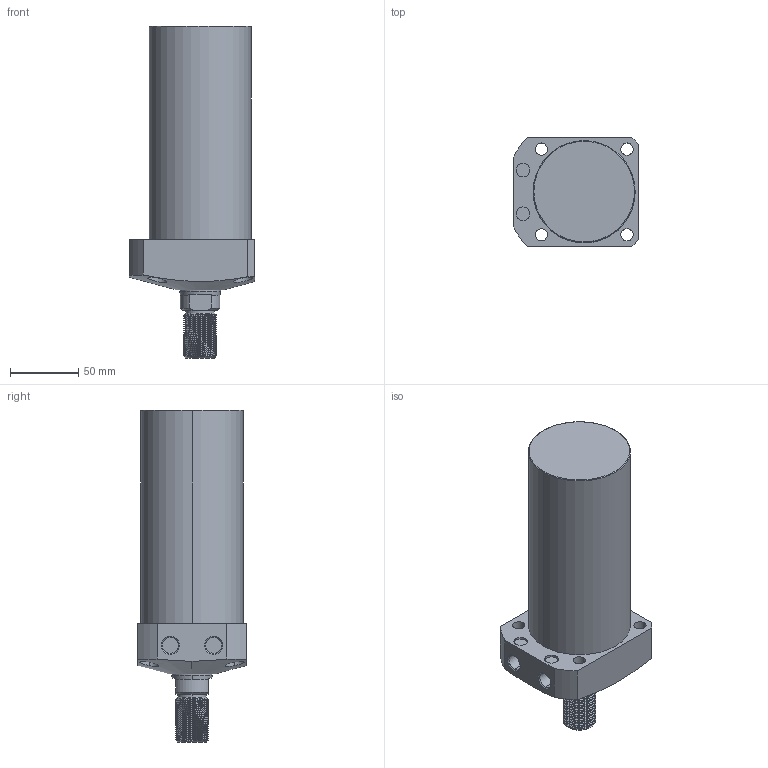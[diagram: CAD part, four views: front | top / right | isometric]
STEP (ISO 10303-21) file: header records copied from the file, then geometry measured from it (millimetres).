
FILE_DESCRIPTION (( 'STEP AP203' ), '1' );
FILE_NAME ('CLL-075CT-120.STEP', '2020-01-08T12:06:58', ( '' ), ( '' ), 'SwSTEP 2.0', 'SolidWorks 2015', '' );
FILE_SCHEMA (( 'CONFIG_CONTROL_DESIGN' ));
Length unit declared in the file: millimetre
Products named in the file (1): CLL-075CT-120
Bounding box: 92 x 80 x 244 mm (x, y, z)
Volume: 934859.4 mm3; surface area: 71820.3 mm2
Topology: 1 solids, 1 shells, 121 faces, 310 edges, 202 vertices
Faces by surface type: cylinder 77, plane 23, cone 17, torus 2, bspline 2
Entity records: 6537 total; most frequent: CARTESIAN_POINT 3747, ORIENTED_EDGE 620, DIRECTION 517, EDGE_CURVE 310, AXIS2_PLACEMENT_3D 204, VERTEX_POINT 202, EDGE_LOOP 140, ADVANCED_FACE 121
